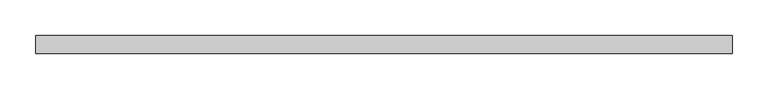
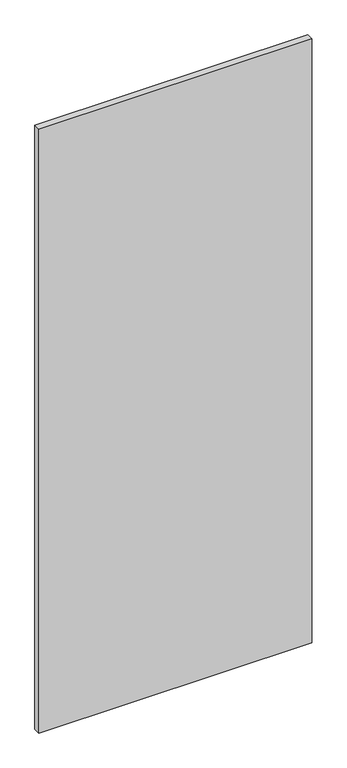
"""IFC4 building model written with IfcOpenShell, lengths in millimetres: plate geometry, 系统嵌板 : 玻璃."""

from ifc_helpers import new_model, si_unit, origin, origin_with_axes, place, context, project, spatial, polyline, outline, extrude, source, transform, mapped, element, save


def plate_9503e3ad(model_context):
    return source(origin(), model_context, "Body", "SweptSolid", [
        extrude(outline(polyline([(485.0, -12.5), (-485.0, -12.5), (-485.0, 12.5), (485.0, 12.5), (485.0, -12.5)])), origin_with_axes(), (0.0, 0.0, 1.0), 2270.0),
    ])


if __name__ == "__main__":
    model = new_model("IFC4")
    model_context = context("Model", 3, world=origin())
    ifc_project = project(units=[si_unit("LENGTHUNIT", "METRE", prefix="MILLI")], contexts=[model_context])
    site = spatial("IfcSite", under=ifc_project)
    building = spatial("IfcBuilding", under=site)
    placement = place(None, origin())
    plate_shape = plate_9503e3ad(model_context)
    element("IfcPlate", 1, ObjectType="系统嵌板 : 玻璃", at=placement, inside=building, context=model_context, shape_type="MappedRepresentation", body=[
        mapped(plate_shape, transform((0.0, 0.0, 0.0), x_axis=(1.0, 0.0, 0.0), y_axis=(0.0, 1.0, 0.0), z_axis=(0.0, 0.0, 1.0))),
    ])
    save(model, "model.ifc")
